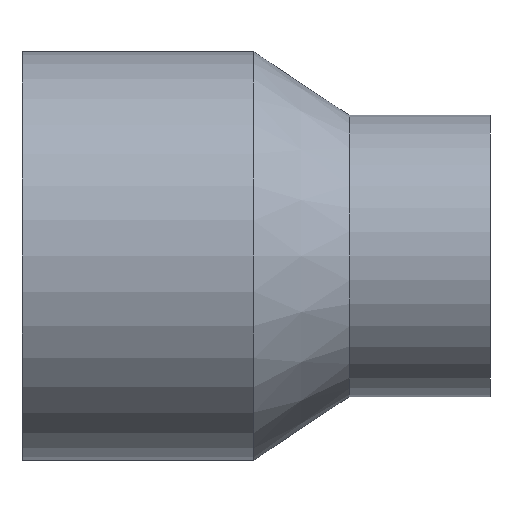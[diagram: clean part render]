
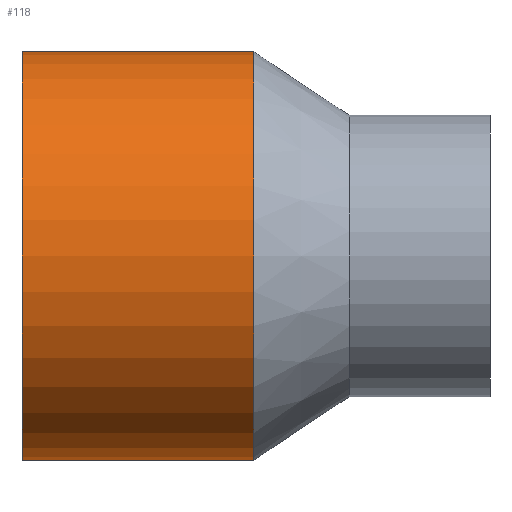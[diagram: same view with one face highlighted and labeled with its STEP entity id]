
A CAD part, front view. The second image highlights one B-rep face of the part: STEP entity #118.
In plain terms, the highlighted cylindrical face has radius 45 mm (diameter 90 mm), a full revolution.
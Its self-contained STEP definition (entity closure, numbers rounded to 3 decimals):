
#18=CYLINDRICAL_SURFACE('',#134,45.);
#25=FACE_BOUND('',#49,.T.);
#35=FACE_OUTER_BOUND('',#48,.T.);
#48=EDGE_LOOP('',(#98));
#49=EDGE_LOOP('',(#99));
#65=CIRCLE('',#133,45.);
#66=CIRCLE('',#135,45.);
#75=VERTEX_POINT('',#199);
#76=VERTEX_POINT('',#202);
#85=EDGE_CURVE('',#75,#75,#65,.T.);
#86=EDGE_CURVE('',#76,#76,#66,.T.);
#98=ORIENTED_EDGE('',*,*,#85,.T.);
#99=ORIENTED_EDGE('',*,*,#86,.F.);
#118=ADVANCED_FACE('',(#35,#25),#18,.T.);
#133=AXIS2_PLACEMENT_3D('',#200,#161,#162);
#134=AXIS2_PLACEMENT_3D('',#201,#163,#164);
#135=AXIS2_PLACEMENT_3D('',#203,#165,#166);
#161=DIRECTION('center_axis',(-1.,0.,0.));
#162=DIRECTION('ref_axis',(0.,0.,1.));
#163=DIRECTION('center_axis',(-1.,0.,0.));
#164=DIRECTION('ref_axis',(0.,-1.,0.));
#165=DIRECTION('center_axis',(-1.,0.,0.));
#166=DIRECTION('ref_axis',(0.,0.,1.));
#199=CARTESIAN_POINT('',(-0.5,-45.,0.));
#200=CARTESIAN_POINT('Origin',(-0.5,0.,0.));
#201=CARTESIAN_POINT('Origin',(-26.,0.,0.));
#202=CARTESIAN_POINT('',(-51.5,-45.,0.));
#203=CARTESIAN_POINT('Origin',(-51.5,0.,0.));
